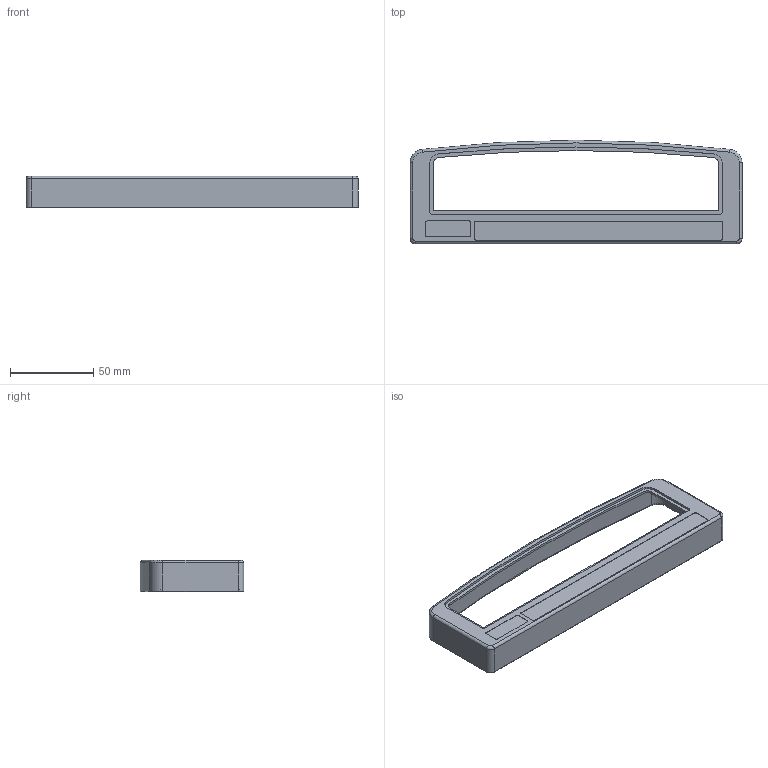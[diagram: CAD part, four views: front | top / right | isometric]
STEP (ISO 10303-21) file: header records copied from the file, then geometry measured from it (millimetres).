
FILE_DESCRIPTION(('Open CASCADE Model'),'2;1');
FILE_NAME('Open CASCADE Shape Model','2026-09-26T16:24:14',('Author'),( 'Open CASCADE'),'Open CASCADE STEP processor 7.9','Open CASCADE 7.9' ,'Unknown');
FILE_SCHEMA(('AUTOMOTIVE_DESIGN { 1 0 10303 214 1 1 1 1 }'));
Length unit declared in the file: millimetre
Products named in the file (1): Open CASCADE STEP translator 7.9 2
Bounding box: 200 x 62.33 x 18.97 mm (x, y, z)
Volume: 24997.7 mm3; surface area: 30483.5 mm2
Topology: 1 solids, 1 shells, 77 faces, 194 edges, 124 vertices
Faces by surface type: cylinder 37, plane 30, torus 8, revolution 2
Entity records: 4765 total; most frequent: CARTESIAN_POINT 1130, DIRECTION 613, ORIENTED_EDGE 388, PCURVE 388, DEFINITIONAL_REPRESENTATION 388, LINE 244, VECTOR 244, EDGE_CURVE 194
